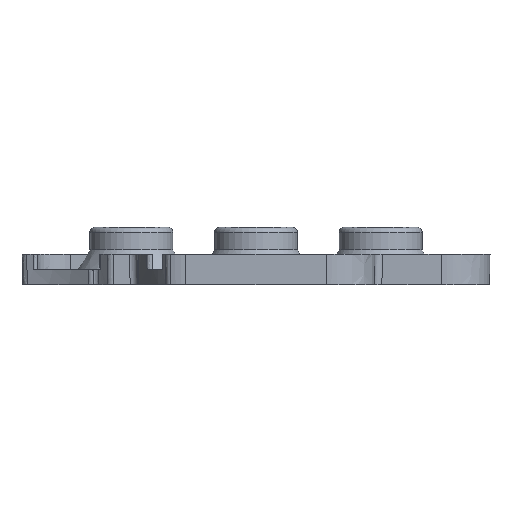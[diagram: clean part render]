
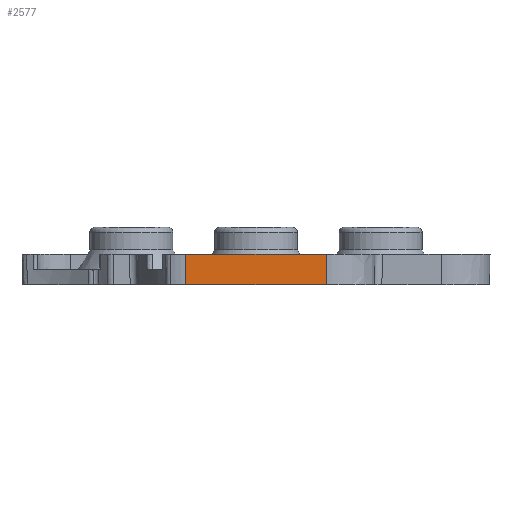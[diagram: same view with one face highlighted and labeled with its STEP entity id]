
A CAD part, left-side view. The second image highlights one B-rep face of the part: STEP entity #2577.
In plain terms, the highlighted planar face has unit normal (-1, 0, -0.018).
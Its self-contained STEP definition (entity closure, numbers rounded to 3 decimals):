
#388=FACE_OUTER_BOUND('',#540,.T.);
#540=EDGE_LOOP('',(#2327,#2328,#2329,#2330));
#610=LINE('',#3929,#785);
#677=LINE('',#4784,#852);
#719=LINE('',#5582,#894);
#720=LINE('',#5584,#895);
#785=VECTOR('',#3225,10.);
#852=VECTOR('',#3416,10.);
#894=VECTOR('',#3534,10.);
#895=VECTOR('',#3537,10.);
#1074=VERTEX_POINT('',#3922);
#1075=VERTEX_POINT('',#3928);
#1177=VERTEX_POINT('',#4778);
#1178=VERTEX_POINT('',#4783);
#1373=EDGE_CURVE('',#1074,#1075,#610,.T.);
#1506=EDGE_CURVE('',#1177,#1178,#677,.T.);
#1588=EDGE_CURVE('',#1075,#1177,#719,.T.);
#1589=EDGE_CURVE('',#1074,#1178,#720,.T.);
#2327=ORIENTED_EDGE('',*,*,#1373,.F.);
#2328=ORIENTED_EDGE('',*,*,#1589,.T.);
#2329=ORIENTED_EDGE('',*,*,#1506,.F.);
#2330=ORIENTED_EDGE('',*,*,#1588,.F.);
#2439=PLANE('',#2854);
#2577=ADVANCED_FACE('',(#388),#2439,.T.);
#2854=AXIS2_PLACEMENT_3D('',#5583,#3535,#3536);
#3225=DIRECTION('',(0.,1.,0.));
#3416=DIRECTION('',(0.,-1.,0.));
#3534=DIRECTION('',(-0.017,0.,1.));
#3535=DIRECTION('center_axis',(-1.,0.,
-0.017));
#3536=DIRECTION('ref_axis',(0.,-1.,0.));
#3537=DIRECTION('',(-0.017,0.,1.));
#3922=CARTESIAN_POINT('',(-23.712,-4.637,0.001));
#3928=CARTESIAN_POINT('',(-23.712,4.637,0.001));
#3929=CARTESIAN_POINT('',(-23.712,-4.637,0.001));
#4778=CARTESIAN_POINT('',(-23.746,4.637,2.001));
#4783=CARTESIAN_POINT('',(-23.746,-4.637,2.001));
#4784=CARTESIAN_POINT('',(-23.746,9.299,2.001));
#5582=CARTESIAN_POINT('',(-23.712,4.637,0.001));
#5583=CARTESIAN_POINT('Origin',(-23.712,4.637,0.001));
#5584=CARTESIAN_POINT('',(-23.712,-4.637,0.001));
